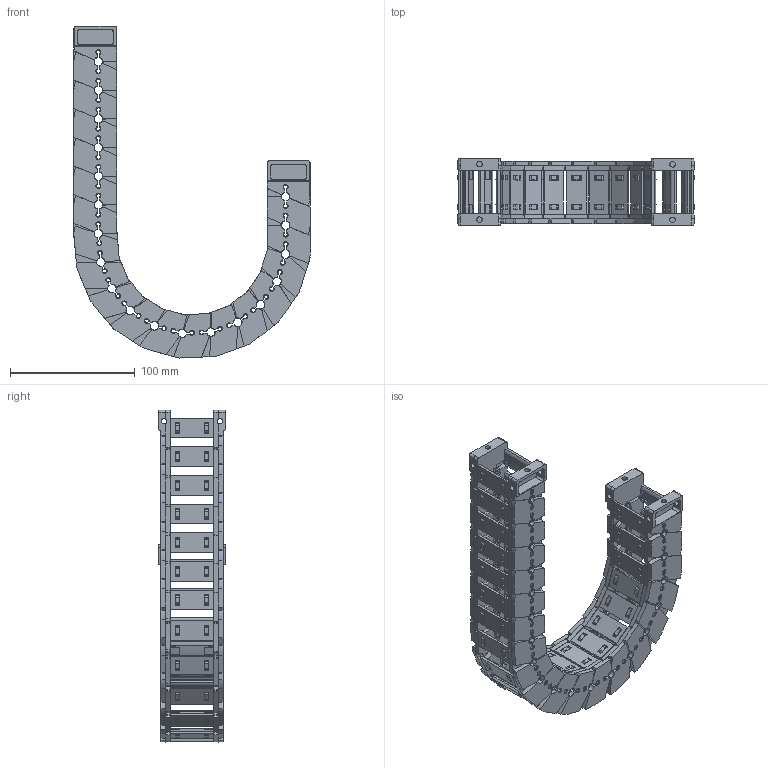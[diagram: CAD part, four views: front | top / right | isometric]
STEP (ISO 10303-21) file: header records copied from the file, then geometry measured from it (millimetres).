
FILE_DESCRIPTION((''),'2;1');
FILE_NAME('JY-28X35-R75_ASM','2026-03-26T08:39:50',('admin'),(''),'CREO PARAMETRIC BY PTC INC, 2021023','CREO PARAMETRIC BY PTC INC, 2021023','');
FILE_SCHEMA(('CONFIG_CONTROL_DESIGN'));
Length unit declared in the file: millimetre
Products named in the file (11): 28XL-L; 25-35XL-YP; 28XL-R; ASM0001_ASM; 28-LTT-A-L; 28-LTT-A-R; 28XL-LTT-A_ASM; 28-LTT-B-L; 28-LTT-B-R; 28XL-LTT-B_ASM; JY-28X35-R75_ASM
Assembly tree (32 placements, depth 3):
  JY-28X35-R75_ASM
    ASM0001_ASM  x18
      28XL-L
      25-35XL-YP
      28XL-R
    28XL-LTT-A_ASM
      28-LTT-A-L
      25-35XL-YP  x2
      28-LTT-A-R
    28XL-LTT-B_ASM
      28-LTT-B-L
      25-35XL-YP  x2
      28-LTT-B-R
Bounding box: 189.55 x 53.5 x 266.34 mm (x, y, z)
Volume: 271516.7 mm3; surface area: 198917.3 mm2
Topology: 80 solids, 80 shells, 6470 faces, 19228 edges, 12838 vertices
Faces by surface type: plane 4242, cone 1156, cylinder 934, bspline 138
Entity records: 29095 total; most frequent: CARTESIAN_POINT 9490, ORIENTED_EDGE 4352, DIRECTION 3655, EDGE_CURVE 2176, VERTEX_POINT 1454, VECTOR 1365, LINE 1365, AXIS2_PLACEMENT_3D 1145
